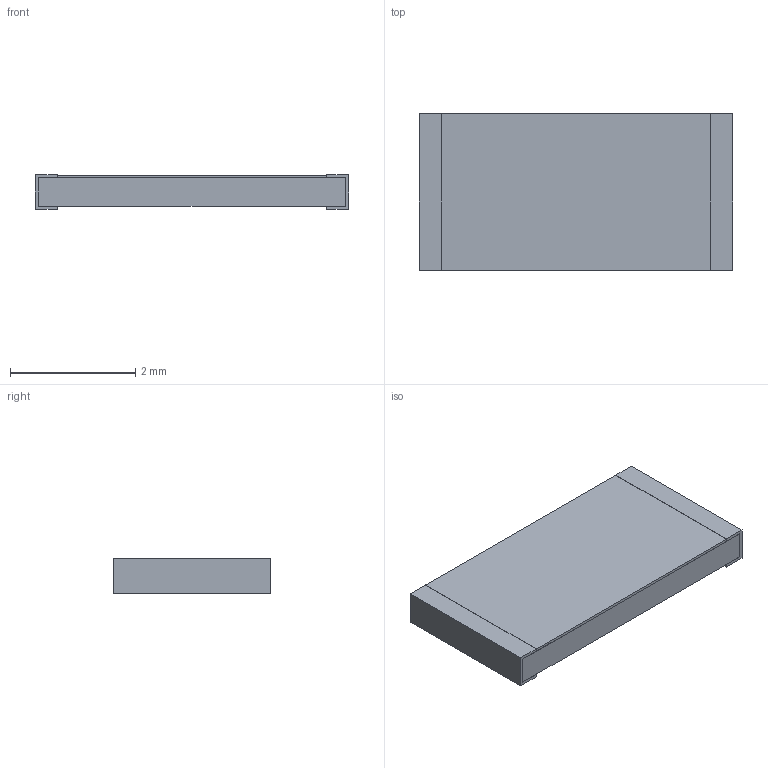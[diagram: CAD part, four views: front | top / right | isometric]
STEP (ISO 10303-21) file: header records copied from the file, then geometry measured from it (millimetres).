
FILE_DESCRIPTION(('STEP AP203'), '1');
FILE_NAME('Ð1-8 2010 ', '', ('UNSPECIFIED'), ('UNSPECIFIED'), 'ASCON STEP Converter 1.6', 'ASCON Math Kernel', '');
FILE_SCHEMA(('CONFIG_CONTROL_DESIGN'));
Length unit declared in the file: millimetre
Bounding box: 5 x 2.5 x 0.55 mm (x, y, z)
Volume: 6.3 mm3; surface area: 65.8 mm2
Topology: 4 solids, 5 shells, 51 faces, 123 edges, 82 vertices
Faces by surface type: plane 47, cylinder 4
Entity records: 1937 total; most frequent: CARTESIAN_POINT 257, ORIENTED_EDGE 246, DIRECTION 235, EDGE_CURVE 123, LINE 115, VECTOR 115, VERTEX_POINT 82, AXIS2_PLACEMENT_3D 60
